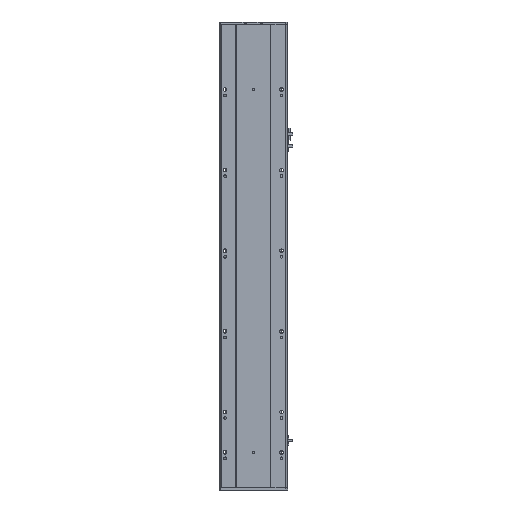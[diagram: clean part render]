
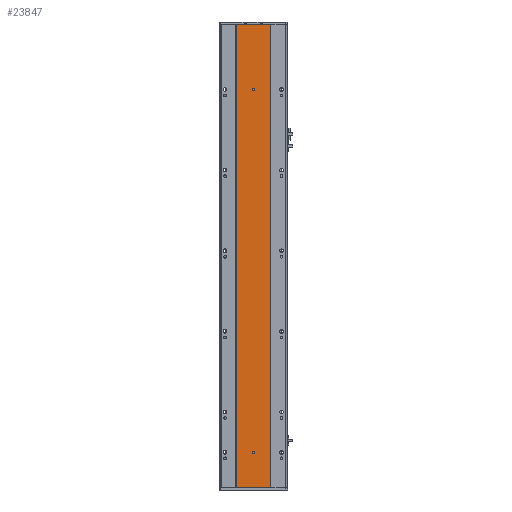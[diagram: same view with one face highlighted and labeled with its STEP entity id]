
A CAD part, front view. The second image highlights one B-rep face of the part: STEP entity #23847.
In plain terms, the highlighted planar face has unit normal (0, -1, 0).
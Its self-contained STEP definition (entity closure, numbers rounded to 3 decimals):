
#248 = CARTESIAN_POINT ( 'NONE',  ( 126.916, 2.57, 1151. ) ) ;
#412 = AXIS2_PLACEMENT_3D ( 'NONE', #7214, #21036, #9254 ) ;
#441 = DIRECTION ( 'NONE',  ( -1., 0., 0. ) ) ;
#479 = DIRECTION ( 'NONE',  ( -1., 0., 0. ) ) ;
#795 = DIRECTION ( 'NONE',  ( 0., 0., 1. ) ) ;
#809 = VERTEX_POINT ( 'NONE', #8607 ) ;
#1517 = EDGE_CURVE ( 'NONE', #14045, #21291, #3570, .T. ) ;
#1960 = EDGE_LOOP ( 'NONE', ( #10969, #25205 ) ) ;
#2092 = DIRECTION ( 'NONE',  ( 0., 1., 0. ) ) ;
#2463 = VERTEX_POINT ( 'NONE', #25165 ) ;
#3570 = LINE ( 'NONE', #23247, #4179 ) ;
#3748 = CARTESIAN_POINT ( 'NONE',  ( 85., 2.57, 88.5 ) ) ;
#3803 = EDGE_CURVE ( 'NONE', #2463, #15889, #16889, .T. ) ;
#3947 = AXIS2_PLACEMENT_3D ( 'NONE', #20441, #8662, #22427 ) ;
#4045 = ORIENTED_EDGE ( 'NONE', *, *, #11060, .F. ) ;
#4179 = VECTOR ( 'NONE', #23469, 1000. ) ;
#5091 = EDGE_CURVE ( 'NONE', #21212, #15328, #8798, .T. ) ;
#5666 = DIRECTION ( 'NONE',  ( 0., 0., 1. ) ) ;
#6082 = CARTESIAN_POINT ( 'NONE',  ( 42.916, 2.57, 0. ) ) ;
#6205 = CARTESIAN_POINT ( 'NONE',  ( 42.916, 2.57, 1151. ) ) ;
#6320 = CIRCLE ( 'NONE', #3947, 3. ) ;
#7196 = VECTOR ( 'NONE', #479, 1000. ) ;
#7214 = CARTESIAN_POINT ( 'NONE',  ( 85., 2.57, 88.5 ) ) ;
#7822 = FACE_OUTER_BOUND ( 'NONE', #22293, .T. ) ;
#8255 = CARTESIAN_POINT ( 'NONE',  ( 85., 2.57, 991.5 ) ) ;
#8477 = LINE ( 'NONE', #8517, #7196 ) ;
#8517 = CARTESIAN_POINT ( 'NONE',  ( 42.916, 2.57, 0. ) ) ;
#8560 = AXIS2_PLACEMENT_3D ( 'NONE', #10598, #12562, #795 ) ;
#8607 = CARTESIAN_POINT ( 'NONE',  ( 42.916, 2.57, 0. ) ) ;
#8662 = DIRECTION ( 'NONE',  ( 0., 1., 0. ) ) ;
#8798 = CIRCLE ( 'NONE', #412, 3. ) ;
#9017 = EDGE_CURVE ( 'NONE', #15328, #21212, #13543, .T. ) ;
#9254 = DIRECTION ( 'NONE',  ( 0., 0., 1. ) ) ;
#9849 = VECTOR ( 'NONE', #441, 1000. ) ;
#10598 = CARTESIAN_POINT ( 'NONE',  ( 42.916, 2.57, 0. ) ) ;
#10969 = ORIENTED_EDGE ( 'NONE', *, *, #3803, .T. ) ;
#11060 = EDGE_CURVE ( 'NONE', #14045, #809, #8477, .T. ) ;
#12367 = ORIENTED_EDGE ( 'NONE', *, *, #14499, .T. ) ;
#12562 = DIRECTION ( 'NONE',  ( 0., 1., 0. ) ) ;
#12826 = AXIS2_PLACEMENT_3D ( 'NONE', #3748, #17518, #5666 ) ;
#13362 = EDGE_CURVE ( 'NONE', #809, #21627, #19466, .T. ) ;
#13543 = CIRCLE ( 'NONE', #12826, 3. ) ;
#13894 = CARTESIAN_POINT ( 'NONE',  ( 85., 2.57, 988.5 ) ) ;
#14045 = VERTEX_POINT ( 'NONE', #14459 ) ;
#14247 = VECTOR ( 'NONE', #23881, 1000. ) ;
#14459 = CARTESIAN_POINT ( 'NONE',  ( 126.916, 2.57, 0. ) ) ;
#14499 = EDGE_CURVE ( 'NONE', #21291, #21627, #20919, .T. ) ;
#15328 = VERTEX_POINT ( 'NONE', #24732 ) ;
#15875 = DIRECTION ( 'NONE',  ( 0., 0., 1. ) ) ;
#15889 = VERTEX_POINT ( 'NONE', #8255 ) ;
#15969 = ORIENTED_EDGE ( 'NONE', *, *, #9017, .T. ) ;
#16449 = PLANE ( 'NONE',  #8560 ) ;
#16889 = CIRCLE ( 'NONE', #22657, 3. ) ;
#17518 = DIRECTION ( 'NONE',  ( 0., 1., 0. ) ) ;
#17739 = FACE_BOUND ( 'NONE', #1960, .T. ) ;
#18352 = FACE_BOUND ( 'NONE', #24385, .T. ) ;
#19466 = LINE ( 'NONE', #6082, #14247 ) ;
#19671 = CARTESIAN_POINT ( 'NONE',  ( 85., 2.57, 91.5 ) ) ;
#20441 = CARTESIAN_POINT ( 'NONE',  ( 85., 2.57, 988.5 ) ) ;
#20919 = LINE ( 'NONE', #6205, #9849 ) ;
#21036 = DIRECTION ( 'NONE',  ( 0., 1., 0. ) ) ;
#21212 = VERTEX_POINT ( 'NONE', #19671 ) ;
#21291 = VERTEX_POINT ( 'NONE', #248 ) ;
#21359 = ORIENTED_EDGE ( 'NONE', *, *, #13362, .F. ) ;
#21529 = ORIENTED_EDGE ( 'NONE', *, *, #5091, .T. ) ;
#21627 = VERTEX_POINT ( 'NONE', #24905 ) ;
#22007 = ORIENTED_EDGE ( 'NONE', *, *, #1517, .T. ) ;
#22293 = EDGE_LOOP ( 'NONE', ( #12367, #21359, #4045, #22007 ) ) ;
#22427 = DIRECTION ( 'NONE',  ( 0., 0., 1. ) ) ;
#22657 = AXIS2_PLACEMENT_3D ( 'NONE', #13894, #2092, #15875 ) ;
#22746 = EDGE_CURVE ( 'NONE', #15889, #2463, #6320, .T. ) ;
#23247 = CARTESIAN_POINT ( 'NONE',  ( 126.916, 2.57, 0. ) ) ;
#23469 = DIRECTION ( 'NONE',  ( 0., 0., 1. ) ) ;
#23847 = ADVANCED_FACE ( 'NONE', ( #18352, #17739, #7822 ), #16449, .F. ) ;
#23881 = DIRECTION ( 'NONE',  ( 0., 0., 1. ) ) ;
#24385 = EDGE_LOOP ( 'NONE', ( #15969, #21529 ) ) ;
#24732 = CARTESIAN_POINT ( 'NONE',  ( 85., 2.57, 85.5 ) ) ;
#24905 = CARTESIAN_POINT ( 'NONE',  ( 42.916, 2.57, 1151. ) ) ;
#25165 = CARTESIAN_POINT ( 'NONE',  ( 85., 2.57, 985.5 ) ) ;
#25205 = ORIENTED_EDGE ( 'NONE', *, *, #22746, .T. ) ;
